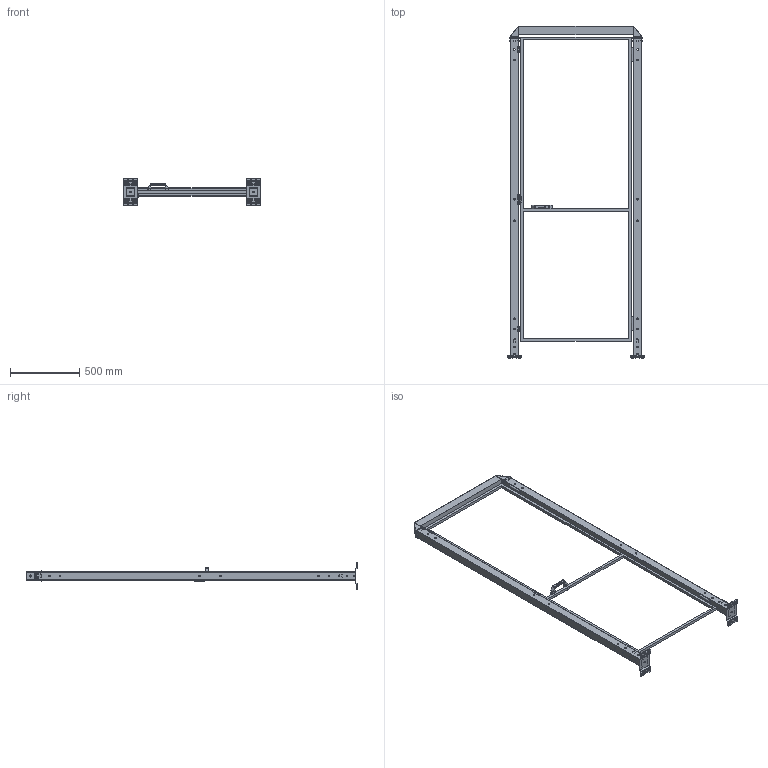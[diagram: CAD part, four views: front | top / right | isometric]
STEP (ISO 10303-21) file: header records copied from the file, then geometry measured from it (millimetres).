
FILE_DESCRIPTION(('STEP AP242'),'1');
FILE_NAME('vfda_bscndr2_08002320.stp','2025-01-23T13:46:06',('TraceParts'),('TraceParts S.A.'),'Spatial InterOp 3D',' ',' ');
FILE_SCHEMA(('AP242_MANAGED_MODEL_BASED_3D_ENGINEERING_MIM_LF {1 0 10303 442 1 1 4}'));
Length unit declared in the file: millimetre
Products named in the file (1): vfda_bscndr2_08002320_1
Bounding box: 990 x 2401 x 192 mm (x, y, z)
Volume: 5019332.7 mm3; surface area: 3327636.2 mm2
Topology: 12 solids, 12 shells, 1874 faces, 5016 edges, 3212 vertices
Faces by surface type: plane 906, cylinder 628, bspline 236, cone 60, torus 40, sphere 4
Entity records: 75648 total; most frequent: CARTESIAN_POINT 13827, ORIENTED_EDGE 10024, DIRECTION 9202, EDGE_CURVE 5012, VERTEX_POINT 3212, LINE 3072, VECTOR 3072, AXIS2_PLACEMENT_3D 3065
